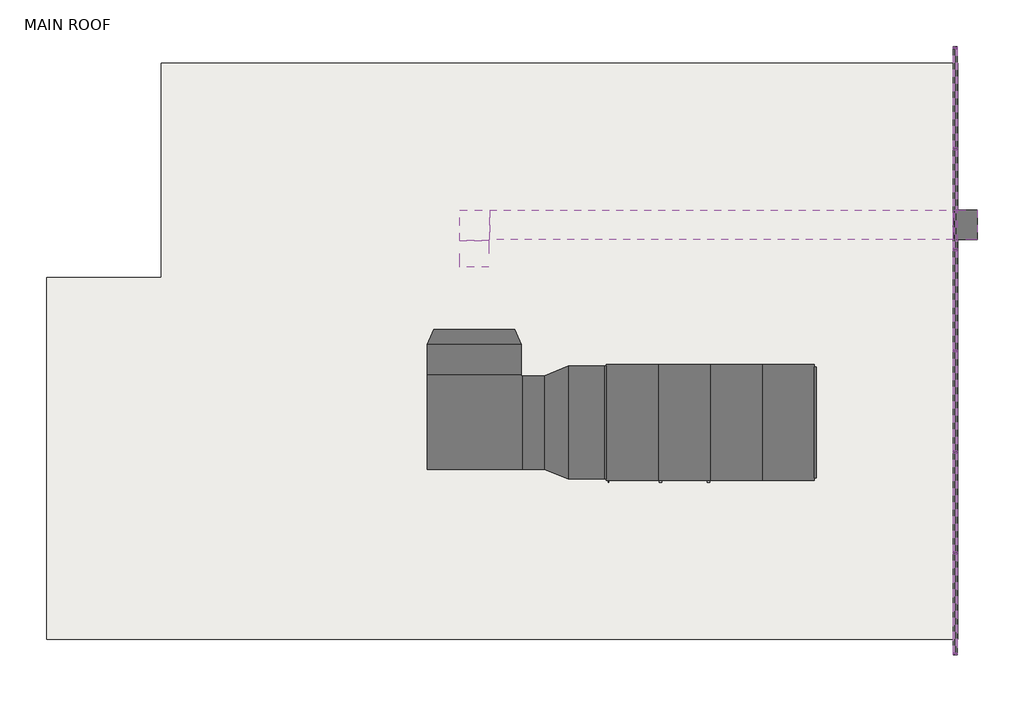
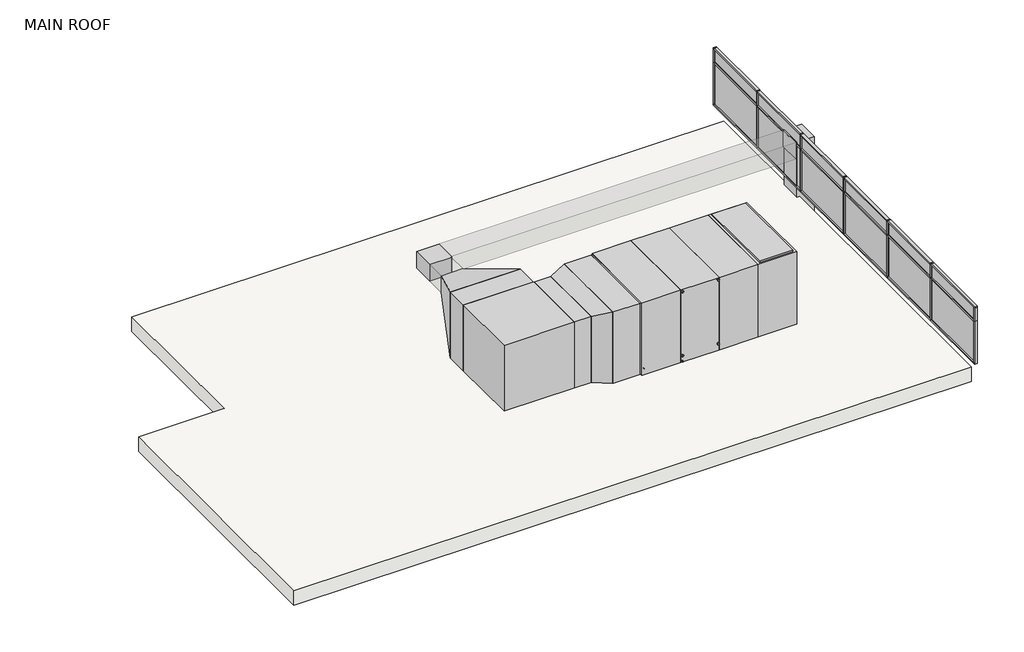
# One storey: 32 members, 12 plates, 7 duct fittings, 7 duct segments, 1 proxy, 1 roof.
"""IFC4 building model written with IfcOpenShell, lengths in millimetres."""

from ifc_helpers import new_model, si_unit, frame, origin, place, context, project, spatial, polyline, outline, extrude, transform, mapped, element, save
from components import m_outdoor_ahu_horizontal_5_7_square_meters_of_coil_4655b0e3, m_rectangular_duct_elbow_mitered_standard_0f3b1f18, m_rectangular_duct_elbow_mitered_standard_e08549d3, m_rectangular_duct_elbow_mitered_standard_55f5f7a5, m_rectangular_duct_transition_angle_45_degree_08de0fec, m_rectangular_duct_transition_angle_45_degree_701ffe2e, m_rectangular_duct_transition_angle_45_degree_38c62c02, m_rectangular_duct_union_standard_44a3ab8d, rectangular_mullion_curtainwallmullion_rectangular_generic_e9761bef, rectangular_mullion_curtainwallmullion_rectangular_generic_19f2ec03, rectangular_mullion_curtainwallmullion_rectangular_generic_31fc3073, rectangular_mullion_curtainwallmullion_rectangular_generic_46636cd4, rectangular_mullion_curtainwallmullion_rectangular_generic_f1dbceae, rectangular_mullion_curtainwallmullion_rectangular_generic_35570b25, rectangular_mullion_curtainwallmullion_rectangular_generic_1c0dcadd, rectangular_mullion_curtainwallmullion_rectangular_generic_4dfc917a, rectangular_mullion_curtainwallmullion_rectangular_generic_a8301379, rectangular_mullion_curtainwallmullion_rectangular_generic_54464770, rectangular_mullion_curtainwallmullion_rectangular_generic_a47ad83a, rectangular_mullion_curtainwallmullion_rectangular_generic_41a09792, system_panel_curtainpanel_glazed_9491f273, system_panel_curtainpanel_solid_2c86f8c4

model = new_model("IFC4")

# Units and contexts
model_context = context("Model", 3, world=origin())
ifc_project = project(units=[si_unit("LENGTHUNIT", "METRE", prefix="MILLI")], contexts=[model_context])

# Site, building, storey
site = spatial("IfcSite", under=ifc_project)
building = spatial("IfcBuilding", under=site)
storey = spatial("IfcBuildingStorey", under=building, Name="MAIN ROOF", Elevation=8000.0)

# Proxy
placement = place(None, origin())
m_outdoor_ahu_horizontal_5_7_square_meters_of_coil_shape = m_outdoor_ahu_horizontal_5_7_square_meters_of_coil_4655b0e3(model_context)
element("IfcBuildingElementProxy", 1, Name="M_Outdoor AHU - Horizontal : 5.7 Square Meters of Coil", ObjectType="M_Outdoor AHU - Horizontal : 5.7 Square Meters of Coil", at=placement, inside=storey, context=model_context, shape_type="MappedRepresentation", body=[
    mapped(m_outdoor_ahu_horizontal_5_7_square_meters_of_coil_shape, transform((442062.7209559, -390768.0026386, 8900.0), x_axis=(-1.0, 0.0, 0.0), y_axis=(0.0, -1.0, 0.0), z_axis=(0.0, 0.0, 1.0))),
])

# Duct fittings
m_rectangular_duct_elbow_mitered_standard_shape = m_rectangular_duct_elbow_mitered_standard_0f3b1f18(model_context)
element("IfcDuctFitting", 2, ObjectType="M_Rectangular Duct Elbow - Mitered : Standard", at=placement, inside=storey, context=model_context, shape_type="MappedRepresentation", body=[
    mapped(m_rectangular_duct_elbow_mitered_standard_shape, transform((433340.6142893, -390768.0026386, 10225.0), x_axis=(-1.0, 0.0, 0.0), y_axis=(0.0, 1.0, 0.0), z_axis=(0.0, 0.0, -1.0))),
])
m_rectangular_duct_elbow_mitered_standard_2_shape = m_rectangular_duct_elbow_mitered_standard_e08549d3(model_context)
element("IfcDuctFitting", 3, ObjectType="M_Rectangular Duct Elbow - Mitered : Standard", at=placement, inside=storey, context=model_context, shape_type="MappedRepresentation", body=[
    mapped(m_rectangular_duct_elbow_mitered_standard_2_shape, transform((433340.6142893, -385695.5417059, 10225.0), x_axis=(0.0, 1.0, 0.0), y_axis=(1.0, 0.0, 0.0), z_axis=(0.0, 0.0, -1.0))),
])
m_rectangular_duct_elbow_mitered_standard_3_shape = m_rectangular_duct_elbow_mitered_standard_55f5f7a5(model_context)
element("IfcDuctFitting", 4, ObjectType="M_Rectangular Duct Elbow - Mitered : Standard", at=placement, inside=storey, context=model_context, shape_type="MappedRepresentation", body=[
    mapped(m_rectangular_duct_elbow_mitered_standard_3_shape, transform((445940.6142893, -385695.5417059, 10225.0), x_axis=(1.0, 0.0, 0.0), y_axis=(0.0, 0.0, -1.0), z_axis=(0.0, 1.0, 0.0))),
])
m_rectangular_duct_transition_angle_45_degree_shape = m_rectangular_duct_transition_angle_45_degree_08de0fec(model_context)
element("IfcDuctFitting", 5, ObjectType="M_Rectangular Duct Transition - Angle : 45 Degree", at=placement, inside=storey, context=model_context, shape_type="MappedRepresentation", body=[
    mapped(m_rectangular_duct_transition_angle_45_degree_shape, transform((435744.1676799, -390768.0026386, 10225.4), x_axis=(-1.0, 0.0, 0.0), y_axis=(0.0, 1.0, 0.0), z_axis=(0.0, 0.0, -1.0))),
])
m_rectangular_duct_transition_angle_45_degree_2_shape = m_rectangular_duct_transition_angle_45_degree_701ffe2e(model_context)
element("IfcDuctFitting", 6, ObjectType="M_Rectangular Duct Transition - Angle : 45 Degree", at=placement, inside=storey, context=model_context, shape_type="MappedRepresentation", body=[
    mapped(m_rectangular_duct_transition_angle_45_degree_2_shape, transform((433340.6142893, -388768.0026386, 10225.0), x_axis=(0.0, 1.0, 0.0), y_axis=(1.0, 0.0, 0.0), z_axis=(0.0, 0.0, -1.0))),
])
m_rectangular_duct_transition_angle_45_degree_3_shape = m_rectangular_duct_transition_angle_45_degree_38c62c02(model_context)
element("IfcDuctFitting", 7, ObjectType="M_Rectangular Duct Transition - Angle : 45 Degree", at=placement, inside=storey, context=model_context, shape_type="MappedRepresentation", body=[
    mapped(m_rectangular_duct_transition_angle_45_degree_3_shape, transform((445940.6142893, -385695.5417059, 2619.1296249), x_axis=(0.0, 0.0, -1.0), y_axis=(0.0, -1.0, 0.0), z_axis=(-1.0, 0.0, 0.0))),
])
m_rectangular_duct_union_standard_shape = m_rectangular_duct_union_standard_44a3ab8d(model_context)
element("IfcDuctFitting", 8, ObjectType="M_Rectangular Duct Union : Standard", at=placement, inside=storey, context=model_context, shape_type="MappedRepresentation", body=[
    mapped(m_rectangular_duct_union_standard_shape, transform((445940.6142893, -385695.5417059, 7481.9432391), x_axis=(0.0, 0.0, -1.0), y_axis=(0.0, -1.0, 0.0), z_axis=(-1.0, 0.0, 0.0))),
])

# Duct segments
element("IfcDuctSegment", 9, ObjectType="Mitered Elbows / Taps", at=placement, inside=storey, context=model_context, shape_type="SweptSolid", body=[
    extrude(outline(polyline([(435140.6142893, -389568.0026386), (435140.6142893, -391968.0026386), (434565.6142893, -391968.0026386), (434565.6142893, -389568.0026386), (435140.6142893, -389568.0026386)])), frame((0.0, 0.0, 9025.0), z_axis=(0.0, 0.0, 1.0), x_axis=(1.0, 0.0, 0.0)), (0.0, 0.0, 1.0), 2400.0),
])
element("IfcDuctSegment", 10, ObjectType="Mitered Elbows / Taps", at=placement, inside=storey, context=model_context, shape_type="SweptSolid", body=[
    extrude(outline(polyline([(436677.9209559, -389318.0026386), (436677.9209559, -392218.0026386), (435744.1676799, -392218.0026386), (435744.1676799, -389318.0026386), (436677.9209559, -389318.0026386)])), frame((0.0, 0.0, 8925.4), z_axis=(0.0, 0.0, 1.0), x_axis=(1.0, 0.0, 0.0)), (0.0, 0.0, 1.0), 2600.0),
])
element("IfcDuctSegment", 11, ObjectType="Mitered Elbows / Taps", at=placement, inside=storey, context=model_context, shape_type="SweptSolid", body=[
    extrude(outline(polyline([(434540.6142893, -389543.0026386), (432140.6142893, -389543.0026386), (432140.6142893, -388768.0026386), (434540.6142893, -388768.0026386), (434540.6142893, -389543.0026386)])), frame((0.0, 0.0, 9025.0), z_axis=(0.0, 0.0, 1.0), x_axis=(1.0, 0.0, 0.0)), (0.0, 0.0, 1.0), 2400.0),
])
element("IfcDuctSegment", 12, ObjectType="Mitered Elbows / Taps", at=placement, inside=storey, context=model_context, shape_type="SweptSolid", body=[
    extrude(outline(polyline([(433715.6142893, -386776.2764497), (432965.6142893, -386776.2764497), (432965.6142893, -386095.5417059), (433715.6142893, -386095.5417059), (433715.6142893, -386776.2764497)])), frame((0.0, 0.0, 9925.0), z_axis=(0.0, 0.0, 1.0), x_axis=(1.0, 0.0, 0.0)), (0.0, 0.0, 1.0), 600.0),
])
element("IfcDuctSegment", 13, ObjectType="Mitered Elbows / Taps", at=placement, inside=storey, context=model_context, shape_type="SweptSolid", body=[
    extrude(outline(polyline([(433740.6142893, -386070.5417059), (433740.6142893, -385320.5417059), (445615.6142893, -385320.5417059), (445615.6142893, -386070.5417059), (433740.6142893, -386070.5417059)])), frame((0.0, 0.0, 9925.0), z_axis=(0.0, 0.0, 1.0), x_axis=(1.0, 0.0, 0.0)), (0.0, 0.0, 1.0), 600.0),
])
element("IfcDuctSegment", 14, ObjectType="Mitered Elbows / Taps", at=placement, inside=storey, context=model_context, shape_type="SweptSolid", body=[
    extrude(outline(polyline([(446240.6142893, -386070.5417059), (445640.6142893, -386070.5417059), (445640.6142893, -385320.5417059), (446240.6142893, -385320.5417059), (446240.6142893, -386070.5417059)])), frame((0.0, 0.0, 2619.1296249), z_axis=(0.0, 0.0, 1.0), x_axis=(1.0, 0.0, 0.0)), (0.0, 0.0, 1.0), 4859.8136143),
])
element("IfcDuctSegment", 15, ObjectType="Mitered Elbows / Taps", at=placement, inside=storey, context=model_context, shape_type="SweptSolid", body=[
    extrude(outline(polyline([(446240.6142893, -386070.5417059), (445640.6142893, -386070.5417059), (445640.6142893, -385320.5417059), (446240.6142893, -385320.5417059), (446240.6142893, -386070.5417059)])), frame((0.0, 0.0, 7484.9432391), z_axis=(0.0, 0.0, 1.0), x_axis=(1.0, 0.0, 0.0)), (0.0, 0.0, 1.0), 2415.0567609),
])

# Members
rectangular_mullion_curtainwallmullion_rectangular_generic_shape = rectangular_mullion_curtainwallmullion_rectangular_generic_e9761bef(model_context)
element("IfcMember", 16, ObjectType="Rectangular Mullion : CurtainWallMullion_Rectangular_Generic", at=placement, inside=storey, context=model_context, shape_type="MappedRepresentation", body=[
    mapped(rectangular_mullion_curtainwallmullion_rectangular_generic_shape, transform((445668.3206883, -394111.6693051, 8950.0), x_axis=(0.0, 1.0, 0.0), y_axis=(1.0, 0.0, 0.0), z_axis=(0.0, 0.0, -1.0))),
])
element("IfcMember", 17, ObjectType="Rectangular Mullion : CurtainWallMullion_Rectangular_Generic", at=placement, inside=storey, context=model_context, shape_type="MappedRepresentation", body=[
    mapped(rectangular_mullion_curtainwallmullion_rectangular_generic_shape, transform((445668.3206883, -391518.3359718, 8950.0), x_axis=(0.0, 1.0, 0.0), y_axis=(1.0, 0.0, 0.0), z_axis=(0.0, 0.0, -1.0))),
])
element("IfcMember", 18, ObjectType="Rectangular Mullion : CurtainWallMullion_Rectangular_Generic", at=placement, inside=storey, context=model_context, shape_type="MappedRepresentation", body=[
    mapped(rectangular_mullion_curtainwallmullion_rectangular_generic_shape, transform((445668.3206883, -388925.0026386, 8950.0), x_axis=(0.0, 1.0, 0.0), y_axis=(1.0, 0.0, 0.0), z_axis=(0.0, 0.0, -1.0))),
])
element("IfcMember", 19, ObjectType="Rectangular Mullion : CurtainWallMullion_Rectangular_Generic", at=placement, inside=storey, context=model_context, shape_type="MappedRepresentation", body=[
    mapped(rectangular_mullion_curtainwallmullion_rectangular_generic_shape, transform((445668.3206883, -386331.6693054, 8950.0), x_axis=(0.0, 1.0, 0.0), y_axis=(1.0, 0.0, 0.0), z_axis=(0.0, 0.0, -1.0))),
])
element("IfcMember", 20, ObjectType="Rectangular Mullion : CurtainWallMullion_Rectangular_Generic", at=placement, inside=storey, context=model_context, shape_type="MappedRepresentation", body=[
    mapped(rectangular_mullion_curtainwallmullion_rectangular_generic_shape, transform((445668.3206883, -383738.3359721, 8950.0), x_axis=(0.0, 1.0, 0.0), y_axis=(1.0, 0.0, 0.0), z_axis=(0.0, 0.0, -1.0))),
])
rectangular_mullion_curtainwallmullion_rectangular_generic_2_shape = rectangular_mullion_curtainwallmullion_rectangular_generic_19f2ec03(model_context)
element("IfcMember", 21, ObjectType="Rectangular Mullion : CurtainWallMullion_Rectangular_Generic", at=placement, inside=storey, context=model_context, shape_type="MappedRepresentation", body=[
    mapped(rectangular_mullion_curtainwallmullion_rectangular_generic_2_shape, transform((445668.3206883, -381120.0026386, 8950.0), x_axis=(0.0, 1.0, 0.0), y_axis=(1.0, 0.0, 0.0), z_axis=(0.0, 0.0, -1.0))),
])
rectangular_mullion_curtainwallmullion_rectangular_generic_3_shape = rectangular_mullion_curtainwallmullion_rectangular_generic_31fc3073(model_context)
element("IfcMember", 22, ObjectType="Rectangular Mullion : CurtainWallMullion_Rectangular_Generic", at=placement, inside=storey, context=model_context, shape_type="MappedRepresentation", body=[
    mapped(rectangular_mullion_curtainwallmullion_rectangular_generic_3_shape, transform((445668.3206883, -396730.0026386, 10950.0), x_axis=(0.0, -1.0, 0.0), y_axis=(1.0, 0.0, 0.0), z_axis=(0.0, 0.0, 1.0))),
])
rectangular_mullion_curtainwallmullion_rectangular_generic_4_shape = rectangular_mullion_curtainwallmullion_rectangular_generic_46636cd4(model_context)
element("IfcMember", 23, ObjectType="Rectangular Mullion : CurtainWallMullion_Rectangular_Generic", at=placement, inside=storey, context=model_context, shape_type="MappedRepresentation", body=[
    mapped(rectangular_mullion_curtainwallmullion_rectangular_generic_4_shape, transform((445668.3206883, -394111.6693051, 10460.0), x_axis=(0.0, 1.0, 0.0), y_axis=(1.0, 0.0, 0.0), z_axis=(0.0, 0.0, -1.0))),
])
element("IfcMember", 24, ObjectType="Rectangular Mullion : CurtainWallMullion_Rectangular_Generic", at=placement, inside=storey, context=model_context, shape_type="MappedRepresentation", body=[
    mapped(rectangular_mullion_curtainwallmullion_rectangular_generic_4_shape, transform((445668.3206883, -391518.3359718, 10460.0), x_axis=(0.0, 1.0, 0.0), y_axis=(1.0, 0.0, 0.0), z_axis=(0.0, 0.0, -1.0))),
])
element("IfcMember", 25, ObjectType="Rectangular Mullion : CurtainWallMullion_Rectangular_Generic", at=placement, inside=storey, context=model_context, shape_type="MappedRepresentation", body=[
    mapped(rectangular_mullion_curtainwallmullion_rectangular_generic_4_shape, transform((445668.3206883, -388925.0026386, 10460.0), x_axis=(0.0, 1.0, 0.0), y_axis=(1.0, 0.0, 0.0), z_axis=(0.0, 0.0, -1.0))),
])
element("IfcMember", 26, ObjectType="Rectangular Mullion : CurtainWallMullion_Rectangular_Generic", at=placement, inside=storey, context=model_context, shape_type="MappedRepresentation", body=[
    mapped(rectangular_mullion_curtainwallmullion_rectangular_generic_4_shape, transform((445668.3206883, -386331.6693054, 10460.0), x_axis=(0.0, 1.0, 0.0), y_axis=(1.0, 0.0, 0.0), z_axis=(0.0, 0.0, -1.0))),
])
element("IfcMember", 27, ObjectType="Rectangular Mullion : CurtainWallMullion_Rectangular_Generic", at=placement, inside=storey, context=model_context, shape_type="MappedRepresentation", body=[
    mapped(rectangular_mullion_curtainwallmullion_rectangular_generic_4_shape, transform((445668.3206883, -383738.3359721, 10460.0), x_axis=(0.0, 1.0, 0.0), y_axis=(1.0, 0.0, 0.0), z_axis=(0.0, 0.0, -1.0))),
])
rectangular_mullion_curtainwallmullion_rectangular_generic_5_shape = rectangular_mullion_curtainwallmullion_rectangular_generic_f1dbceae(model_context)
element("IfcMember", 28, ObjectType="Rectangular Mullion : CurtainWallMullion_Rectangular_Generic", at=placement, inside=storey, context=model_context, shape_type="MappedRepresentation", body=[
    mapped(rectangular_mullion_curtainwallmullion_rectangular_generic_5_shape, transform((445668.3206883, -381120.0026386, 10460.0), x_axis=(0.0, 1.0, 0.0), y_axis=(1.0, 0.0, 0.0), z_axis=(0.0, 0.0, -1.0))),
])
rectangular_mullion_curtainwallmullion_rectangular_generic_6_shape = rectangular_mullion_curtainwallmullion_rectangular_generic_35570b25(model_context)
element("IfcMember", 29, ObjectType="Rectangular Mullion : CurtainWallMullion_Rectangular_Generic", at=placement, inside=storey, context=model_context, shape_type="MappedRepresentation", body=[
    mapped(rectangular_mullion_curtainwallmullion_rectangular_generic_6_shape, transform((445668.3206883, -396730.0026386, 10460.0), x_axis=(0.0, -1.0, 0.0), y_axis=(1.0, 0.0, 0.0), z_axis=(0.0, 0.0, 1.0))),
])
rectangular_mullion_curtainwallmullion_rectangular_generic_7_shape = rectangular_mullion_curtainwallmullion_rectangular_generic_1c0dcadd(model_context)
element("IfcMember", 30, ObjectType="Rectangular Mullion : CurtainWallMullion_Rectangular_Generic", at=placement, inside=storey, context=model_context, shape_type="MappedRepresentation", body=[
    mapped(rectangular_mullion_curtainwallmullion_rectangular_generic_7_shape, transform((445668.3206883, -381170.0026386, 11000.0), x_axis=(0.0, 0.0, 1.0), y_axis=(1.0, 0.0, 0.0), z_axis=(0.0, 1.0, 0.0))),
])
element("IfcMember", 31, ObjectType="Rectangular Mullion : CurtainWallMullion_Rectangular_Generic", at=placement, inside=storey, context=model_context, shape_type="MappedRepresentation", body=[
    mapped(rectangular_mullion_curtainwallmullion_rectangular_generic_7_shape, transform((445668.3206883, -391543.3359718, 11000.0), x_axis=(0.0, 0.0, 1.0), y_axis=(1.0, 0.0, 0.0), z_axis=(0.0, 1.0, 0.0))),
])
element("IfcMember", 32, ObjectType="Rectangular Mullion : CurtainWallMullion_Rectangular_Generic", at=placement, inside=storey, context=model_context, shape_type="MappedRepresentation", body=[
    mapped(rectangular_mullion_curtainwallmullion_rectangular_generic_7_shape, transform((445668.3206883, -388950.0026386, 11000.0), x_axis=(0.0, 0.0, 1.0), y_axis=(1.0, 0.0, 0.0), z_axis=(0.0, 1.0, 0.0))),
])
element("IfcMember", 33, ObjectType="Rectangular Mullion : CurtainWallMullion_Rectangular_Generic", at=placement, inside=storey, context=model_context, shape_type="MappedRepresentation", body=[
    mapped(rectangular_mullion_curtainwallmullion_rectangular_generic_7_shape, transform((445668.3206883, -386356.6693054, 11000.0), x_axis=(0.0, 0.0, 1.0), y_axis=(1.0, 0.0, 0.0), z_axis=(0.0, 1.0, 0.0))),
])
element("IfcMember", 34, ObjectType="Rectangular Mullion : CurtainWallMullion_Rectangular_Generic", at=placement, inside=storey, context=model_context, shape_type="MappedRepresentation", body=[
    mapped(rectangular_mullion_curtainwallmullion_rectangular_generic_7_shape, transform((445668.3206883, -383763.3359721, 11000.0), x_axis=(0.0, 0.0, 1.0), y_axis=(1.0, 0.0, 0.0), z_axis=(0.0, 1.0, 0.0))),
])
rectangular_mullion_curtainwallmullion_rectangular_generic_8_shape = rectangular_mullion_curtainwallmullion_rectangular_generic_4dfc917a(model_context)
element("IfcMember", 35, ObjectType="Rectangular Mullion : CurtainWallMullion_Rectangular_Generic", at=placement, inside=storey, context=model_context, shape_type="MappedRepresentation", body=[
    mapped(rectangular_mullion_curtainwallmullion_rectangular_generic_8_shape, transform((445668.3206883, -394136.6693051, 11000.0), x_axis=(0.0, 0.0, 1.0), y_axis=(1.0, 0.0, 0.0), z_axis=(0.0, 1.0, 0.0))),
])
rectangular_mullion_curtainwallmullion_rectangular_generic_9_shape = rectangular_mullion_curtainwallmullion_rectangular_generic_a8301379(model_context)
element("IfcMember", 36, ObjectType="Rectangular Mullion : CurtainWallMullion_Rectangular_Generic", at=placement, inside=storey, context=model_context, shape_type="MappedRepresentation", body=[
    mapped(rectangular_mullion_curtainwallmullion_rectangular_generic_9_shape, transform((445668.3206883, -396680.0026386, 8900.0), x_axis=(0.0, 0.0, -1.0), y_axis=(1.0, 0.0, 0.0), z_axis=(0.0, -1.0, 0.0))),
])
rectangular_mullion_curtainwallmullion_rectangular_generic_10_shape = rectangular_mullion_curtainwallmullion_rectangular_generic_54464770(model_context)
element("IfcMember", 37, ObjectType="Rectangular Mullion : CurtainWallMullion_Rectangular_Generic", at=placement, inside=storey, context=model_context, shape_type="MappedRepresentation", body=[
    mapped(rectangular_mullion_curtainwallmullion_rectangular_generic_10_shape, transform((445668.3206883, -394111.6693051, 8900.0), x_axis=(0.0, 0.0, -1.0), y_axis=(1.0, 0.0, 0.0), z_axis=(0.0, -1.0, 0.0))),
])
element("IfcMember", 38, ObjectType="Rectangular Mullion : CurtainWallMullion_Rectangular_Generic", at=placement, inside=storey, context=model_context, shape_type="MappedRepresentation", body=[
    mapped(rectangular_mullion_curtainwallmullion_rectangular_generic_10_shape, transform((445668.3206883, -391518.3359718, 8900.0), x_axis=(0.0, 0.0, -1.0), y_axis=(1.0, 0.0, 0.0), z_axis=(0.0, -1.0, 0.0))),
])
element("IfcMember", 39, ObjectType="Rectangular Mullion : CurtainWallMullion_Rectangular_Generic", at=placement, inside=storey, context=model_context, shape_type="MappedRepresentation", body=[
    mapped(rectangular_mullion_curtainwallmullion_rectangular_generic_10_shape, transform((445668.3206883, -388925.0026386, 8900.0), x_axis=(0.0, 0.0, -1.0), y_axis=(1.0, 0.0, 0.0), z_axis=(0.0, -1.0, 0.0))),
])
element("IfcMember", 40, ObjectType="Rectangular Mullion : CurtainWallMullion_Rectangular_Generic", at=placement, inside=storey, context=model_context, shape_type="MappedRepresentation", body=[
    mapped(rectangular_mullion_curtainwallmullion_rectangular_generic_10_shape, transform((445668.3206883, -386331.6693054, 8900.0), x_axis=(0.0, 0.0, -1.0), y_axis=(1.0, 0.0, 0.0), z_axis=(0.0, -1.0, 0.0))),
])
rectangular_mullion_curtainwallmullion_rectangular_generic_11_shape = rectangular_mullion_curtainwallmullion_rectangular_generic_a47ad83a(model_context)
element("IfcMember", 41, ObjectType="Rectangular Mullion : CurtainWallMullion_Rectangular_Generic", at=placement, inside=storey, context=model_context, shape_type="MappedRepresentation", body=[
    mapped(rectangular_mullion_curtainwallmullion_rectangular_generic_11_shape, transform((445668.3206883, -383738.3359721, 8900.0), x_axis=(0.0, 0.0, -1.0), y_axis=(1.0, 0.0, 0.0), z_axis=(0.0, -1.0, 0.0))),
])
rectangular_mullion_curtainwallmullion_rectangular_generic_12_shape = rectangular_mullion_curtainwallmullion_rectangular_generic_41a09792(model_context)
element("IfcMember", 42, ObjectType="Rectangular Mullion : CurtainWallMullion_Rectangular_Generic", at=placement, inside=storey, context=model_context, shape_type="MappedRepresentation", body=[
    mapped(rectangular_mullion_curtainwallmullion_rectangular_generic_12_shape, transform((445668.3206883, -394136.6693051, 10460.0), x_axis=(0.0, 0.0, 1.0), y_axis=(1.0, 0.0, 0.0), z_axis=(0.0, 1.0, 0.0))),
])
element("IfcMember", 43, ObjectType="Rectangular Mullion : CurtainWallMullion_Rectangular_Generic", at=placement, inside=storey, context=model_context, shape_type="MappedRepresentation", body=[
    mapped(rectangular_mullion_curtainwallmullion_rectangular_generic_12_shape, transform((445668.3206883, -391543.3359718, 10460.0), x_axis=(0.0, 0.0, 1.0), y_axis=(1.0, 0.0, 0.0), z_axis=(0.0, 1.0, 0.0))),
])
element("IfcMember", 44, ObjectType="Rectangular Mullion : CurtainWallMullion_Rectangular_Generic", at=placement, inside=storey, context=model_context, shape_type="MappedRepresentation", body=[
    mapped(rectangular_mullion_curtainwallmullion_rectangular_generic_12_shape, transform((445668.3206883, -388950.0026386, 10460.0), x_axis=(0.0, 0.0, 1.0), y_axis=(1.0, 0.0, 0.0), z_axis=(0.0, 1.0, 0.0))),
])
element("IfcMember", 45, ObjectType="Rectangular Mullion : CurtainWallMullion_Rectangular_Generic", at=placement, inside=storey, context=model_context, shape_type="MappedRepresentation", body=[
    mapped(rectangular_mullion_curtainwallmullion_rectangular_generic_12_shape, transform((445668.3206883, -386356.6693054, 10460.0), x_axis=(0.0, 0.0, 1.0), y_axis=(1.0, 0.0, 0.0), z_axis=(0.0, 1.0, 0.0))),
])
element("IfcMember", 46, ObjectType="Rectangular Mullion : CurtainWallMullion_Rectangular_Generic", at=placement, inside=storey, context=model_context, shape_type="MappedRepresentation", body=[
    mapped(rectangular_mullion_curtainwallmullion_rectangular_generic_12_shape, transform((445668.3206883, -383763.3359721, 10460.0), x_axis=(0.0, 0.0, 1.0), y_axis=(1.0, 0.0, 0.0), z_axis=(0.0, 1.0, 0.0))),
])
element("IfcMember", 47, ObjectType="Rectangular Mullion : CurtainWallMullion_Rectangular_Generic", at=placement, inside=storey, context=model_context, shape_type="MappedRepresentation", body=[
    mapped(rectangular_mullion_curtainwallmullion_rectangular_generic_12_shape, transform((445668.3206883, -381170.0026386, 10460.0), x_axis=(0.0, 0.0, 1.0), y_axis=(1.0, 0.0, 0.0), z_axis=(0.0, 1.0, 0.0))),
])

# Plates
system_panel_curtainpanel_glazed_shape = system_panel_curtainpanel_glazed_9491f273(model_context)
element("IfcPlate", 48, ObjectType="System Panel : CurtainPanel_Glazed", at=placement, inside=storey, context=model_context, shape_type="MappedRepresentation", body=[
    mapped(system_panel_curtainpanel_glazed_shape, transform((445668.3206883, -395408.3359718, 8950.0), x_axis=(0.0, 1.0, 0.0), y_axis=(-1.0, 0.0, 0.0), z_axis=(0.0, 0.0, 1.0))),
])
element("IfcPlate", 49, ObjectType="System Panel : CurtainPanel_Glazed", at=placement, inside=storey, context=model_context, shape_type="MappedRepresentation", body=[
    mapped(system_panel_curtainpanel_glazed_shape, transform((445668.3206883, -392815.0026385, 8950.0), x_axis=(0.0, 1.0, 0.0), y_axis=(-1.0, 0.0, 0.0), z_axis=(0.0, 0.0, 1.0))),
])
element("IfcPlate", 50, ObjectType="System Panel : CurtainPanel_Glazed", at=placement, inside=storey, context=model_context, shape_type="MappedRepresentation", body=[
    mapped(system_panel_curtainpanel_glazed_shape, transform((445668.3206883, -390221.6693052, 8950.0), x_axis=(0.0, 1.0, 0.0), y_axis=(-1.0, 0.0, 0.0), z_axis=(0.0, 0.0, 1.0))),
])
element("IfcPlate", 51, ObjectType="System Panel : CurtainPanel_Glazed", at=placement, inside=storey, context=model_context, shape_type="MappedRepresentation", body=[
    mapped(system_panel_curtainpanel_glazed_shape, transform((445668.3206883, -387628.335972, 8950.0), x_axis=(0.0, 1.0, 0.0), y_axis=(-1.0, 0.0, 0.0), z_axis=(0.0, 0.0, 1.0))),
])
element("IfcPlate", 52, ObjectType="System Panel : CurtainPanel_Glazed", at=placement, inside=storey, context=model_context, shape_type="MappedRepresentation", body=[
    mapped(system_panel_curtainpanel_glazed_shape, transform((445668.3206883, -385035.0026388, 8950.0), x_axis=(0.0, 1.0, 0.0), y_axis=(-1.0, 0.0, 0.0), z_axis=(0.0, 0.0, 1.0))),
])
element("IfcPlate", 53, ObjectType="System Panel : CurtainPanel_Glazed", at=placement, inside=storey, context=model_context, shape_type="MappedRepresentation", body=[
    mapped(system_panel_curtainpanel_glazed_shape, transform((445668.3206883, -382441.6693054, 8950.0), x_axis=(0.0, 1.0, 0.0), y_axis=(-1.0, 0.0, 0.0), z_axis=(0.0, 0.0, 1.0))),
])
system_panel_curtainpanel_solid_shape = system_panel_curtainpanel_solid_2c86f8c4(model_context)
element("IfcPlate", 54, ObjectType="System Panel : CurtainPanel_Solid", at=placement, inside=storey, context=model_context, shape_type="MappedRepresentation", body=[
    mapped(system_panel_curtainpanel_solid_shape, transform((445668.3206883, -395408.3359718, 10485.0), x_axis=(0.0, 1.0, 0.0), y_axis=(-1.0, 0.0, 0.0), z_axis=(0.0, 0.0, 1.0))),
])
element("IfcPlate", 55, ObjectType="System Panel : CurtainPanel_Solid", at=placement, inside=storey, context=model_context, shape_type="MappedRepresentation", body=[
    mapped(system_panel_curtainpanel_solid_shape, transform((445668.3206883, -392815.0026385, 10485.0), x_axis=(0.0, 1.0, 0.0), y_axis=(-1.0, 0.0, 0.0), z_axis=(0.0, 0.0, 1.0))),
])
element("IfcPlate", 56, ObjectType="System Panel : CurtainPanel_Solid", at=placement, inside=storey, context=model_context, shape_type="MappedRepresentation", body=[
    mapped(system_panel_curtainpanel_solid_shape, transform((445668.3206883, -390221.6693052, 10485.0), x_axis=(0.0, 1.0, 0.0), y_axis=(-1.0, 0.0, 0.0), z_axis=(0.0, 0.0, 1.0))),
])
element("IfcPlate", 57, ObjectType="System Panel : CurtainPanel_Solid", at=placement, inside=storey, context=model_context, shape_type="MappedRepresentation", body=[
    mapped(system_panel_curtainpanel_solid_shape, transform((445668.3206883, -387628.335972, 10485.0), x_axis=(0.0, 1.0, 0.0), y_axis=(-1.0, 0.0, 0.0), z_axis=(0.0, 0.0, 1.0))),
])
element("IfcPlate", 58, ObjectType="System Panel : CurtainPanel_Solid", at=placement, inside=storey, context=model_context, shape_type="MappedRepresentation", body=[
    mapped(system_panel_curtainpanel_solid_shape, transform((445668.3206883, -385035.0026388, 10485.0), x_axis=(0.0, 1.0, 0.0), y_axis=(-1.0, 0.0, 0.0), z_axis=(0.0, 0.0, 1.0))),
])
element("IfcPlate", 59, ObjectType="System Panel : CurtainPanel_Solid", at=placement, inside=storey, context=model_context, shape_type="MappedRepresentation", body=[
    mapped(system_panel_curtainpanel_solid_shape, transform((445668.3206883, -382441.6693054, 10485.0), x_axis=(0.0, 1.0, 0.0), y_axis=(-1.0, 0.0, 0.0), z_axis=(0.0, 0.0, 1.0))),
])

# Roof
element("IfcRoof", 60, ObjectType="Roof_Generic400mm", at=placement, inside=storey, context=model_context, shape_type="SweptSolid", body=[
    extrude(outline(polyline([(425322.3206883, -381550.0026386), (445738.3206883, -381550.0026386), (445738.3206883, -396328.0026386), (422376.3206883, -396328.0026386), (422376.3206883, -387049.0026386), (425322.3206883, -387049.0026386), (425322.3206883, -381550.0026386)])), frame((0.0, 0.0, 8000.0), z_axis=(0.0, 0.0, 1.0), x_axis=(1.0, 0.0, 0.0)), (0.0, 0.0, 1.0), 525.0),
])

save(model, "model.ifc")
